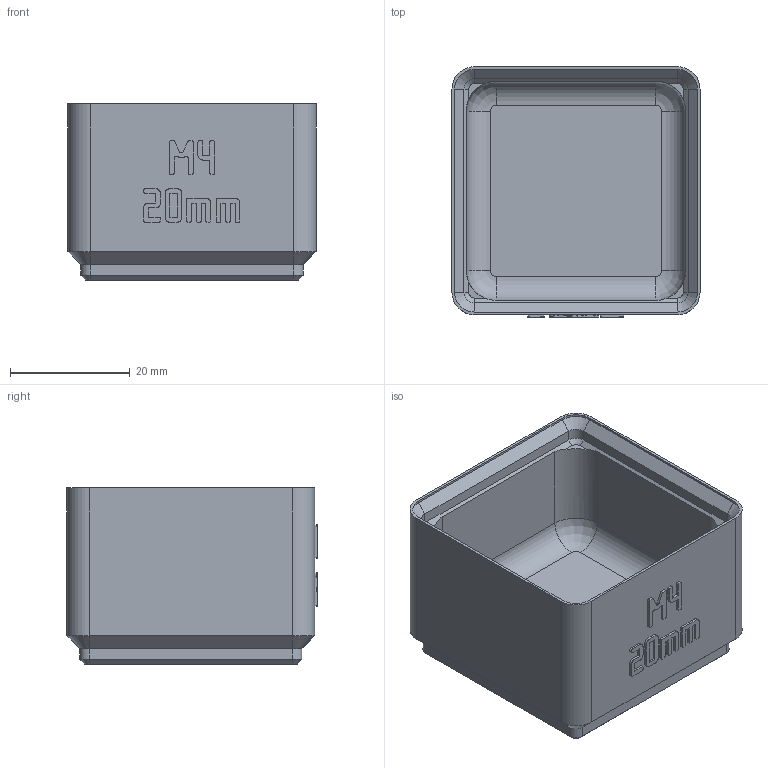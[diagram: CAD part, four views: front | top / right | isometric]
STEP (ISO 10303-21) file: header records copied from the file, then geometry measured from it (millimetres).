
FILE_DESCRIPTION(('Open CASCADE Model'),'2;1');
FILE_NAME('Open CASCADE Shape Model','2026-11-03T10:23:39',('Author'),( 'Open CASCADE'),'Open CASCADE STEP processor 8.0','build123d', 'Unknown');
FILE_SCHEMA(('AUTOMOTIVE_DESIGN { 1 0 10303 214 1 1 1 1 }'));
Length unit declared in the file: millimetre
Products named in the file (1): COMPOUND
Bounding box: 41.5 x 41.9 x 29.5 mm (x, y, z)
Volume: 18940.2 mm3; surface area: 10647.5 mm2
Topology: 1 solids, 1 shells, 638 faces, 1828 edges, 1200 vertices
Faces by surface type: plane 594, cylinder 24, cone 16, revolution 4
Entity records: 42990 total; most frequent: CARTESIAN_POINT 8767, DIRECTION 5522, LINE 4092, VECTOR 4092, ORIENTED_EDGE 3656, PCURVE 3656, DEFINITIONAL_REPRESENTATION 3656, EDGE_CURVE 1828
